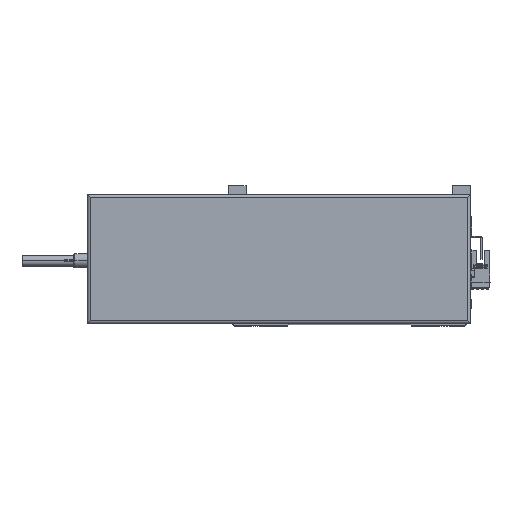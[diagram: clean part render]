
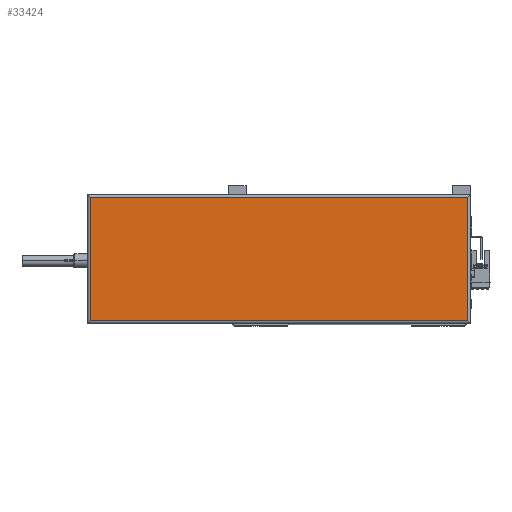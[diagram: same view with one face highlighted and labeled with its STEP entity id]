
A CAD part, top view. The second image highlights one B-rep face of the part: STEP entity #33424.
In plain terms, the highlighted planar face has unit normal (0, 0, 1).
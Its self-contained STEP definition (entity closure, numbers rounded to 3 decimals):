
#2747 = DIRECTION ( 'NONE',  ( 0., -1., 0. ) ) ;
#3437 = LINE ( 'NONE', #5302, #45209 ) ;
#5144 = LINE ( 'NONE', #46480, #23089 ) ;
#5302 = CARTESIAN_POINT ( 'NONE',  ( 267., 2., 44.8 ) ) ;
#6336 = FACE_OUTER_BOUND ( 'NONE', #18150, .T. ) ;
#10542 = CARTESIAN_POINT ( 'NONE',  ( 2., 0., 44.8 ) ) ;
#12751 = CARTESIAN_POINT ( 'NONE',  ( 265., 90., 44.8 ) ) ;
#12856 = EDGE_CURVE ( 'NONE', #19033, #20079, #20901, .T. ) ;
#16605 = ORIENTED_EDGE ( 'NONE', *, *, #12856, .T. ) ;
#16806 = CARTESIAN_POINT ( 'NONE',  ( 2., 2., 44.8 ) ) ;
#17655 = DIRECTION ( 'NONE',  ( 1., 0., 0. ) ) ;
#18150 = EDGE_LOOP ( 'NONE', ( #33828, #27119, #16605, #33935 ) ) ;
#19033 = VERTEX_POINT ( 'NONE', #22188 ) ;
#19482 = DIRECTION ( 'NONE',  ( 1., 0., 0. ) ) ;
#19663 = CARTESIAN_POINT ( 'NONE',  ( 265., 88., 44.8 ) ) ;
#19865 = DIRECTION ( 'NONE',  ( -1., 0., 0. ) ) ;
#20079 = VERTEX_POINT ( 'NONE', #16806 ) ;
#20901 = LINE ( 'NONE', #10542, #24500 ) ;
#21220 = AXIS2_PLACEMENT_3D ( 'NONE', #31320, #27498, #19482 ) ;
#22188 = CARTESIAN_POINT ( 'NONE',  ( 2., 88., 44.8 ) ) ;
#22233 = EDGE_CURVE ( 'NONE', #43010, #22953, #27551, .T. ) ;
#22953 = VERTEX_POINT ( 'NONE', #19663 ) ;
#23089 = VECTOR ( 'NONE', #19865, 1000. ) ;
#24500 = VECTOR ( 'NONE', #2747, 1000. ) ;
#27119 = ORIENTED_EDGE ( 'NONE', *, *, #44236, .T. ) ;
#27498 = DIRECTION ( 'NONE',  ( 0., 0., 1. ) ) ;
#27551 = LINE ( 'NONE', #12751, #43116 ) ;
#29540 = EDGE_CURVE ( 'NONE', #20079, #43010, #3437, .T. ) ;
#31320 = CARTESIAN_POINT ( 'NONE',  ( 133.5, 45., 44.8 ) ) ;
#33424 = ADVANCED_FACE ( 'NONE', ( #6336 ), #38846, .T. ) ;
#33828 = ORIENTED_EDGE ( 'NONE', *, *, #22233, .T. ) ;
#33935 = ORIENTED_EDGE ( 'NONE', *, *, #29540, .T. ) ;
#38846 = PLANE ( 'NONE',  #21220 ) ;
#43010 = VERTEX_POINT ( 'NONE', #47924 ) ;
#43116 = VECTOR ( 'NONE', #46569, 1000. ) ;
#44236 = EDGE_CURVE ( 'NONE', #22953, #19033, #5144, .T. ) ;
#45209 = VECTOR ( 'NONE', #17655, 1000. ) ;
#46480 = CARTESIAN_POINT ( 'NONE',  ( 0., 88., 44.8 ) ) ;
#46569 = DIRECTION ( 'NONE',  ( 0., 1., 0. ) ) ;
#47924 = CARTESIAN_POINT ( 'NONE',  ( 265., 2., 44.8 ) ) ;
